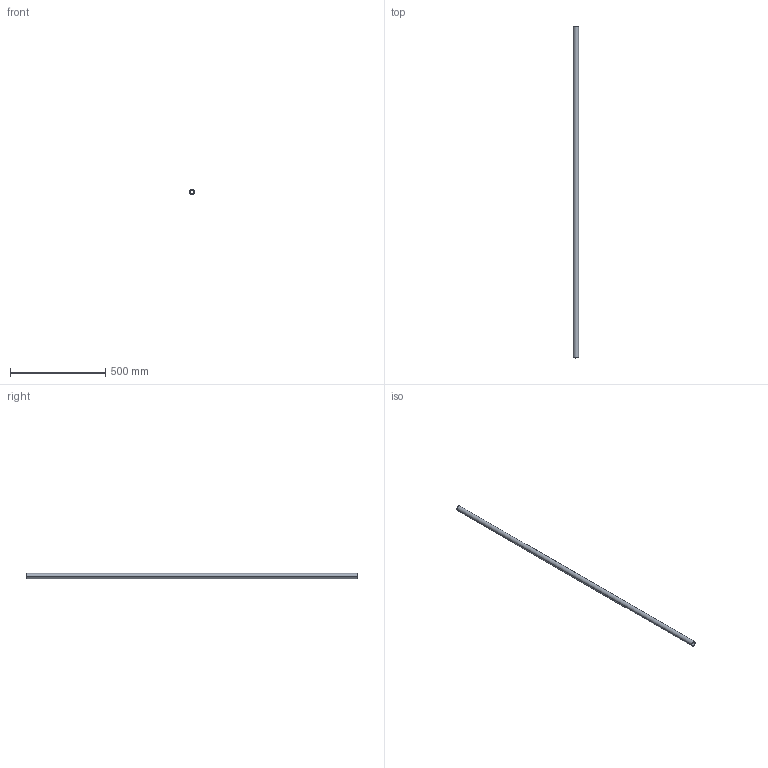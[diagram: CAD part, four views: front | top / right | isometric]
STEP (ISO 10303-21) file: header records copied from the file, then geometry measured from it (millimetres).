
FILE_DESCRIPTION (( 'STEP AP214' ), '1' );
FILE_NAME ('CCJ029-REP.318 - LISSE PLATEFORME INFERIEURE B4-C4.STEP', '2024-01-31T10:02:38', ( '' ), ( '' ), 'SwSTEP 2.0', 'SolidWorks 2021', '' );
FILE_SCHEMA (( 'AUTOMOTIVE_DESIGN' ));
Length unit declared in the file: millimetre
Products named in the file (1): CCJ029-REP.318 - LISSE PLATEFORME INFERIEURE B4-C4
Bounding box: 26.9 x 1743 x 26.9 mm (x, y, z)
Volume: 309820.5 mm3; surface area: 269764.7 mm2
Topology: 1 solids, 1 shells, 6 faces, 12 edges, 8 vertices
Faces by surface type: cylinder 4, plane 2
Entity records: 202 total; most frequent: DIRECTION 34, CARTESIAN_POINT 27, ORIENTED_EDGE 24, AXIS2_PLACEMENT_3D 15, EDGE_CURVE 12, EDGE_LOOP 8, VERTEX_POINT 8, CIRCLE 8
